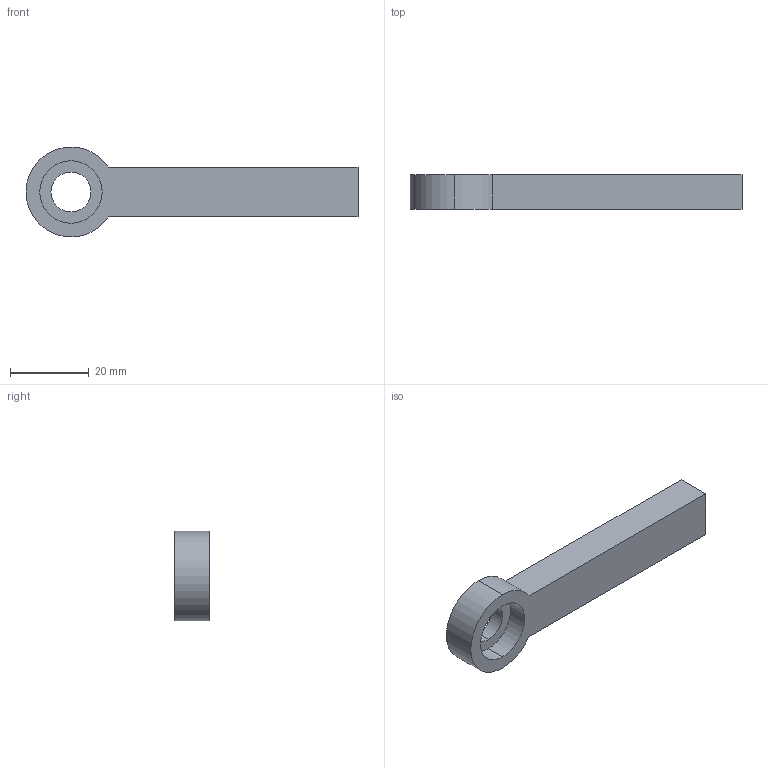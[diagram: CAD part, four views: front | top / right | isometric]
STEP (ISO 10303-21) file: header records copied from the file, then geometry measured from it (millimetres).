
FILE_DESCRIPTION (( 'STEP AP214' ), '1' );
FILE_NAME ('Rod_part1.STEP', '2015-04-16T23:58:09', ( '' ), ( '' ), 'SwSTEP 2.0', 'SolidWorks 2012', '' );
FILE_SCHEMA (( 'AUTOMOTIVE_DESIGN' ));
Length unit declared in the file: inch
Products named in the file (1): Rod_part1
Bounding box: 84.43 x 8.76 x 22.86 mm (x, y, z)
Volume: 9213.9 mm3; surface area: 4344.8 mm2
Topology: 1 solids, 1 shells, 13 faces, 30 edges, 20 vertices
Faces by surface type: cylinder 7, plane 6
Entity records: 422 total; most frequent: DIRECTION 72, CARTESIAN_POINT 64, ORIENTED_EDGE 60, EDGE_CURVE 30, AXIS2_PLACEMENT_3D 28, VERTEX_POINT 20, EDGE_LOOP 16, LINE 16
